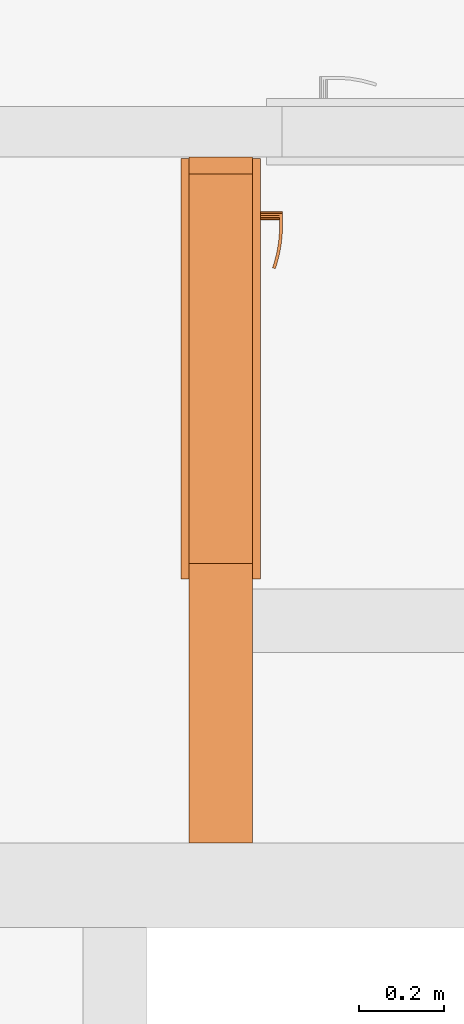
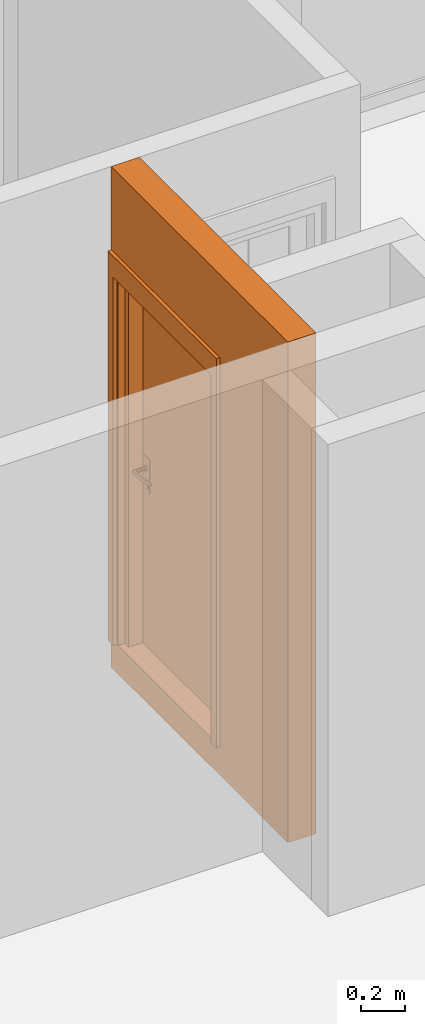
# One storey, part 26 of 66: 2 proxies, 1 opening.
"""IFC2X3 building model written with IfcOpenShell, lengths in millimetres."""

from ifc_helpers import new_model, entity, si_unit, converted_unit, derived_unit, money_unit, direction, frame, origin_with_axes, origin_2d_with_axis, place, context, subcontext, project, spatial, rectangle, extrude, open_shell, faceted_brep, surface_model, source, transform, mapped, material, type_object, element, fill, save


model = new_model("IFC2X3")

# Units and contexts
model_context = context("Model", 3, precision=0.01, world=origin_with_axes(), true_north=direction((0.34421633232, 0.938890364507)))
body_context = subcontext(model_context, "Body", "Model", "MODEL_VIEW")
ifc_project = project(units=[si_unit("LENGTHUNIT", "METRE", prefix="MILLI"), si_unit("AREAUNIT", "SQUARE_METRE"), si_unit("VOLUMEUNIT", "CUBIC_METRE"), converted_unit("PLANEANGLEUNIT", "DEGREE", entity("IfcPlaneAngleMeasure", 0.0174532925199), si_unit("PLANEANGLEUNIT", "RADIAN"), dimensions=[0, 0, 0, 0, 0, 0, 0]), si_unit("SOLIDANGLEUNIT", "STERADIAN"), money_unit("USD"), converted_unit("TIMEUNIT", "Year", entity("IfcTimeMeasure", 31556926.0), si_unit("TIMEUNIT", "SECOND"), dimensions=[0, 0, 1, 0, 0, 0, 0]), si_unit("MASSUNIT", "GRAM", prefix="KILO"), si_unit("THERMODYNAMICTEMPERATUREUNIT", "DEGREE_CELSIUS"), si_unit("LUMINOUSINTENSITYUNIT", "LUMEN"), si_unit("ENERGYUNIT", "JOULE", prefix="MEGA"), derived_unit("THERMALCONDUCTANCEUNIT", [(si_unit("POWERUNIT", "WATT"), 1), (si_unit("LENGTHUNIT", "METRE"), -1), (si_unit("THERMODYNAMICTEMPERATUREUNIT", "KELVIN"), -1)]), derived_unit("SPECIFICHEATCAPACITYUNIT", [(si_unit("ENERGYUNIT", "JOULE"), 1), (si_unit("MASSUNIT", "GRAM", prefix="KILO"), -1), (si_unit("THERMODYNAMICTEMPERATUREUNIT", "KELVIN"), -1)]), derived_unit("MASSDENSITYUNIT", [(si_unit("MASSUNIT", "GRAM", prefix="KILO"), 1), (si_unit("VOLUMEUNIT", "CUBIC_METRE"), -1)])], contexts=[model_context])

# Site, building, storey
site_placement = place(None, origin_with_axes())
site = spatial("IfcSite", under=ifc_project, at=site_placement, Name="USTRONIE MORSKIE", CompositionType="ELEMENT")
building_placement = place(site_placement, origin_with_axes())
building = spatial("IfcBuilding", under=site, at=building_placement, Name="Budynek", CompositionType="ELEMENT")
storey_placement = place(building_placement, frame((0.0, 0.0, 10000.0), z_axis=(0.0, 0.0, 1.0), x_axis=(1.0, 0.0, 0.0)))
storey = spatial("IfcBuildingStorey", under=building, at=storey_placement, Name="PIĘTRO 3", CompositionType="ELEMENT", Elevation=10000.0)

# Proxies, opening
ifc_material = material(Name="Bloczki silikatowe")
building_element_proxy_type_1 = type_object("IfcBuildingElementProxyType", Name="Bloczki silikatowe 150", PredefinedType="NOTDEFINED")
proxy_1_placement = place(storey_placement, frame((353042.920919, 744701.199036, -160.0), z_axis=(0.0, 0.0, 1.0), x_axis=(0.0, 1.0, 0.0)))
proxy_1 = element("IfcBuildingElementProxy", 1, at=proxy_1_placement, inside=storey, type_object=building_element_proxy_type_1, material=ifc_material, Name="SW-03", context=body_context, shape_type="Brep", body=[
    faceted_brep([(1720.0, -75.0, 2800.0), (1720.0, 75.0, 2800.0), (100.0, 75.0, 2800.0), (100.0, -75.0, 2800.0), (1720.0, -75.0, 0.0), (1720.0, 75.0, 0.0), (100.0, 75.0, 0.0), (100.0, -75.0, 0.0)], [[[0, 1, 2, 3]], [[1, 0, 4, 5]], [[1, 5, 6, 2]], [[7, 3, 2, 6]], [[4, 0, 3, 7]], [[5, 4, 7, 6]]]),
])
opening_placement = place(proxy_1_placement, frame((1220.0, 0.0, 160.0), z_axis=(0.0, 0.0, 1.0), x_axis=(1.0, 0.0, 0.0)))
opening = element("IfcOpeningElement", 2, at=opening_placement, cuts=proxy_1, Name="Dw.4", context=body_context, shape_type="SweptSolid", body=[
    extrude(rectangle(XDim=920.0, YDim=2070.0, at=origin_2d_with_axis()), frame((0.0, 150.0, 1035.0), z_axis=(0.0, -1.0, 0.0), x_axis=(-1.0, 0.0, 0.0)), (0.0, 0.0, 1.0), 450.0),
    extrude(rectangle(XDim=994.0, YDim=2177.0, at=origin_2d_with_axis()), frame((0.0, 75.0, 1088.5), z_axis=(0.0, -1.0, 0.0), x_axis=(-1.0, 0.0, 0.0)), (0.0, 0.0, -1.0), 150.0),
    extrude(rectangle(XDim=994.0, YDim=2177.0, at=origin_2d_with_axis()), frame((0.0, -75.0, 1088.5), z_axis=(0.0, 1.0, 0.0), x_axis=(-1.0, 0.0, 0.0)), (0.0, 0.0, -1.0), 150.0),
])
building_element_proxy_type_2 = type_object("IfcBuildingElementProxyType", Name="Drzwi 23", PredefinedType="NOTDEFINED")
shared_shape = source(origin_with_axes(), body_context, "Body", "SurfaceModel", [
    faceted_brep([(-460.0, -115.0, 0.0), (-435.0, -115.0, 0.0), (-435.0, -150.0, 0.0), (-460.0, -150.0, 0.0), (-460.0, -115.0, 2070.0), (-435.0, -115.0, 2045.0), (-435.0, -150.0, 2045.0), (-460.0, -150.0, 2070.0)], [[[0, 1, 2, 3]], [[0, 4, 5, 1]], [[1, 5, 6, 2]], [[3, 2, 6, 7]], [[4, 0, 3, 7]], [[5, 4, 7, 6]]]),
    faceted_brep([(460.0, -115.0, 2070.0), (435.0, -115.0, 2045.0), (435.0, -150.0, 2045.0), (460.0, -150.0, 2070.0), (460.0, -115.0, 0.0), (435.0, -115.0, 0.0), (435.0, -150.0, 0.0), (460.0, -150.0, 0.0)], [[[0, 1, 2, 3]], [[0, 4, 5, 1]], [[1, 5, 6, 2]], [[3, 2, 6, 7]], [[4, 0, 3, 7]], [[5, 4, 7, 6]]]),
    faceted_brep([(-435.0, -115.0, 2045.0), (435.0, -115.0, 2045.0), (435.0, -150.0, 2045.0), (-435.0, -150.0, 2045.0), (-460.0, -115.0, 2070.0), (460.0, -115.0, 2070.0), (460.0, -150.0, 2070.0), (-460.0, -150.0, 2070.0)], [[[0, 1, 2, 3]], [[0, 4, 5, 1]], [[1, 5, 6, 2]], [[3, 2, 6, 7]], [[4, 0, 3, 7]], [[5, 4, 7, 6]]]),
    faceted_brep([(-497.0, -169.0, 0.0), (-497.0, -150.0, 0.0), (-447.0, -150.0, 0.0), (-447.0, -169.0, 0.0), (-497.0, -169.0, 2177.0), (-497.0, -150.0, 2177.0), (-447.0, -150.0, 2057.0), (-447.0, -169.0, 2057.0)], [[[0, 1, 2, 3]], [[4, 5, 1, 0]], [[1, 5, 6, 2]], [[3, 2, 6, 7]], [[0, 3, 7, 4]], [[7, 6, 5, 4]]]),
    faceted_brep([(497.0, -169.0, 2177.0), (497.0, -150.0, 2177.0), (447.0, -150.0, 2057.0), (447.0, -169.0, 2057.0), (497.0, -169.0, 0.0), (497.0, -150.0, 0.0), (447.0, -150.0, 0.0), (447.0, -169.0, 0.0)], [[[0, 1, 2, 3]], [[4, 5, 1, 0]], [[1, 5, 6, 2]], [[3, 2, 6, 7]], [[0, 3, 7, 4]], [[7, 6, 5, 4]]]),
    faceted_brep([(-497.0, -169.0, 2177.0), (-497.0, -150.0, 2177.0), (-447.0, -150.0, 2057.0), (-447.0, -169.0, 2057.0), (497.0, -169.0, 2177.0), (497.0, -150.0, 2177.0), (447.0, -150.0, 2057.0), (447.0, -169.0, 2057.0)], [[[0, 1, 2, 3]], [[4, 5, 1, 0]], [[1, 5, 6, 2]], [[3, 2, 6, 7]], [[0, 3, 7, 4]], [[7, 6, 5, 4]]]),
    faceted_brep([(-497.0, 19.0, 0.0), (-447.0, 19.0, 0.0), (-447.0, 0.0, 0.0), (-497.0, 0.0, 0.0), (-497.0, 19.0, 2177.0), (-447.0, 19.0, 2057.0), (-447.0, 0.0, 2057.0), (-497.0, 0.0, 2177.0)], [[[0, 1, 2, 3]], [[0, 4, 5, 1]], [[1, 5, 6, 2]], [[3, 2, 6, 7]], [[4, 0, 3, 7]], [[5, 4, 7, 6]]]),
    faceted_brep([(497.0, 19.0, 2177.0), (447.0, 19.0, 2057.0), (447.0, 0.0, 2057.0), (497.0, 0.0, 2177.0), (497.0, 19.0, 0.0), (447.0, 19.0, 0.0), (447.0, 0.0, 0.0), (497.0, 0.0, 0.0)], [[[0, 1, 2, 3]], [[0, 4, 5, 1]], [[1, 5, 6, 2]], [[3, 2, 6, 7]], [[4, 0, 3, 7]], [[5, 4, 7, 6]]]),
    faceted_brep([(-497.0, 19.0, 2177.0), (-447.0, 19.0, 2057.0), (-447.0, 0.0, 2057.0), (-497.0, 0.0, 2177.0), (497.0, 19.0, 2177.0), (447.0, 19.0, 2057.0), (447.0, 0.0, 2057.0), (497.0, 0.0, 2177.0)], [[[0, 1, 2, 3]], [[0, 4, 5, 1]], [[1, 5, 6, 2]], [[3, 2, 6, 7]], [[4, 0, 3, 7]], [[5, 4, 7, 6]]]),
    faceted_brep([(-400.0, -40.0, 0.0), (-400.0, -40.0, 2000.0), (-400.0, -115.0, 2000.0), (-400.0, -115.0, 0.0), (-412.0, -40.0, 2000.0), (-412.0, -40.0, 0.0), (-412.0, 0.0, 2000.0), (-460.0, 0.0, 2000.0), (-460.0, -115.0, 2000.0), (-460.0, -115.0, 0.0), (-460.0, 0.0, 0.0), (-412.0, 0.0, 0.0)], [[[0, 1, 2, 3]], [[4, 1, 0, 5]], [[4, 6, 7, 8, 2, 1]], [[3, 2, 8, 9]], [[5, 0, 3, 9, 10, 11]], [[6, 4, 5, 11]], [[6, 11, 10, 7]], [[10, 9, 8, 7]]]),
    faceted_brep([(412.0, -40.0, 2000.0), (400.0, -40.0, 2000.0), (400.0, -115.0, 2000.0), (460.0, -115.0, 2000.0), (460.0, 0.0, 2000.0), (412.0, 0.0, 2000.0), (412.0, -40.0, 0.0), (400.0, -40.0, 0.0), (400.0, -115.0, 0.0), (460.0, -115.0, 0.0), (460.0, 0.0, 0.0), (412.0, 0.0, 0.0)], [[[0, 1, 2, 3, 4, 5]], [[1, 0, 6, 7]], [[1, 7, 8, 2]], [[3, 2, 8, 9]], [[4, 3, 9, 10]], [[11, 5, 4, 10]], [[0, 5, 11, 6]], [[6, 11, 10, 9, 8, 7]]]),
    faceted_brep([(-412.0, 0.0, 2012.0), (-412.0, 0.0, 2000.0), (-460.0, 0.0, 2000.0), (-460.0, 0.0, 2070.0), (460.0, 0.0, 2070.0), (460.0, 0.0, 2000.0), (412.0, 0.0, 2000.0), (412.0, 0.0, 2012.0), (-412.0, -40.0, 2012.0), (-412.0, -40.0, 2000.0), (-400.0, -40.0, 2000.0), (-400.0, -115.0, 2000.0), (-460.0, -115.0, 2000.0), (-460.0, -115.0, 2070.0), (460.0, -115.0, 2070.0), (460.0, -115.0, 2000.0), (412.0, -40.0, 2000.0), (400.0, -115.0, 2000.0), (400.0, -40.0, 2000.0), (412.0, -40.0, 2012.0)], [[[0, 1, 2, 3, 4, 5, 6, 7]], [[1, 0, 8, 9]], [[9, 10, 11, 12, 2, 1]], [[2, 12, 13, 3]], [[3, 13, 14, 4]], [[4, 14, 15, 5]], [[16, 6, 5, 15, 17, 18]], [[7, 6, 16, 19]], [[0, 7, 19, 8]], [[16, 18, 10, 9, 8, 19]], [[10, 18, 17, 11]], [[17, 15, 14, 13, 12, 11]]]),
    faceted_brep([(-390.5, -40.0, 1060.0), (-390.5, -43.0, 1060.0), (-333.5, -43.0, 1060.0), (-333.5, -40.0, 1060.0), (-390.5, -40.0, 870.0), (-390.5, -43.0, 870.0), (-333.5, -43.0, 870.0), (-333.5, -40.0, 870.0)], [[[0, 1, 2, 3]], [[4, 5, 1, 0]], [[1, 5, 6, 2]], [[3, 2, 6, 7]], [[0, 3, 7, 4]], [[7, 6, 5, 4]]]),
    faceted_brep([(-362.0, -104.0, 990.0), (-362.0, -111.0, 990.0), (-367.0, -111.0, 991.339745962), (-367.0, -104.0, 991.339745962), (-337.0, -104.0, 990.0), (-337.0, -111.0, 990.0), (-337.0, -111.0, 1010.0), (-362.0, -111.0, 1010.0), (-367.0, -111.0, 1008.66025404), (-370.660254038, -111.0, 1005.0), (-372.0, -111.0, 1000.0), (-370.660254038, -111.0, 995.0), (-370.660254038, -104.0, 995.0), (-372.0, -104.0, 1000.0), (-370.660254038, -104.0, 1005.0), (-367.0, -104.0, 1008.66025404), (-362.0, -104.0, 1010.0), (-337.0, -104.0, 1010.0)], [[[0, 1, 2, 3]], [[4, 5, 1, 0]], [[1, 5, 6, 7, 8, 9, 10, 11, 2]], [[3, 2, 11, 12]], [[0, 3, 12, 13, 14, 15, 16, 17, 4]], [[17, 6, 5, 4]], [[16, 7, 6, 17]], [[15, 8, 7, 16]], [[14, 9, 8, 15]], [[13, 10, 9, 14]], [[12, 11, 10, 13]]]),
    surface_model("IfcShellBasedSurfaceModel", [(-337.0, -104.0, 1010.0), (-323.596090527, -111.0, 1009.60730092), (-323.901717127, -104.0, 1009.60730092), (-337.0, -111.0, 1010.0), (-296.890283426, -108.663544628, 1008.82190275), (-323.901717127, -104.0, 990.392699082), (-337.0, -104.0, 990.0), (-337.0, -111.0, 990.0), (-323.596090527, -111.0, 990.392699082), (-296.890283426, -108.663544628, 991.178097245), (-297.804837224, -101.716818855, 1008.82190275), (-297.804837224, -101.716818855, 991.178097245), (-270.489735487, -104.008415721, 991.963495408), (-270.489735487, -104.008415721, 1008.03650459), (-272.006256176, -97.1678329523, 1008.03650459), (-272.006256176, -97.1678329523, 991.963495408), (-244.59537082, -97.0700416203, 992.748893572), (-244.59537082, -97.0700416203, 1007.25110643), (-246.702316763, -90.3876628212, 1007.25110643), (-246.702316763, -90.3876628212, 992.748893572), (-236.538795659, -94.1376880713, 993.0), (-236.538795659, -94.1376880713, 1007.0), (-238.829442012, -87.5221707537, 1007.0), (-238.829442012, -87.5221707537, 993.0)], [open_shell([[[0, 1, 2]], [[0, 3, 1]], [[2, 1, 4]], [[0, 2, 5, 6]], [[3, 7, 8, 1]], [[1, 8, 9, 4]], [[2, 4, 10]], [[2, 10, 11, 5]], [[5, 7, 6]], [[5, 8, 7]], [[11, 9, 8]], [[4, 9, 12, 13]], [[10, 4, 13]], [[10, 14, 15, 11]], [[11, 8, 5]], [[15, 9, 11]], [[15, 12, 9]], [[13, 12, 16, 17]], [[10, 13, 14]], [[14, 18, 19, 15]], [[19, 12, 15]], [[19, 16, 12]], [[17, 16, 20, 21]], [[14, 13, 17]], [[14, 17, 18]], [[18, 22, 23, 19]], [[23, 16, 19]], [[23, 20, 16]], [[22, 21, 20, 23]], [[18, 17, 21]], [[18, 21, 22]]])]),
    faceted_brep([(-351.607695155, -53.0, 994.0), (-350.741669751, -43.0, 993.5), (-349.0, -43.0, 1000.0), (-350.0, -53.0, 1000.0), (-356.0, -53.0, 989.607695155), (-355.5, -43.0, 988.741669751), (-362.0, -43.0, 987.0), (-368.5, -43.0, 988.741669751), (-373.258330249, -43.0, 993.5), (-375.0, -43.0, 1000.0), (-373.258330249, -43.0, 1006.5), (-368.5, -43.0, 1011.25833025), (-362.0, -43.0, 1013.0), (-355.5, -43.0, 1011.25833025), (-350.741669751, -43.0, 1006.5), (-351.607695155, -53.0, 1006.0), (-356.0, -53.0, 1010.39230485), (-362.0, -53.0, 1012.0), (-368.0, -53.0, 1010.39230485), (-372.392304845, -53.0, 1006.0), (-374.0, -53.0, 1000.0), (-372.392304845, -53.0, 994.0), (-368.0, -53.0, 989.607695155), (-362.0, -53.0, 988.0)], [[[0, 1, 2, 3]], [[4, 5, 1, 0]], [[2, 1, 5, 6, 7, 8, 9, 10, 11, 12, 13, 14]], [[3, 2, 14, 15]], [[3, 15, 16, 17, 18, 19, 20, 21, 22, 23, 4, 0]], [[23, 6, 5, 4]], [[22, 7, 6, 23]], [[21, 8, 7, 22]], [[20, 9, 8, 21]], [[19, 10, 9, 20]], [[18, 11, 10, 19]], [[17, 12, 11, 18]], [[16, 13, 12, 17]], [[15, 14, 13, 16]]]),
    faceted_brep([(-344.679491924, -47.0, 895.0), (-342.947441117, -43.0, 894.0), (-340.0, -43.0, 905.0), (-342.0, -47.0, 905.0), (-352.0, -47.0, 887.679491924), (-351.0, -43.0, 885.947441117), (-362.0, -43.0, 883.0), (-373.0, -43.0, 885.947441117), (-381.052558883, -43.0, 894.0), (-384.0, -43.0, 905.0), (-381.052558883, -43.0, 916.0), (-373.0, -43.0, 924.052558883), (-362.0, -43.0, 927.0), (-351.0, -43.0, 924.052558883), (-342.947441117, -43.0, 916.0), (-344.679491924, -47.0, 915.0), (-352.0, -47.0, 922.320508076), (-362.0, -47.0, 925.0), (-372.0, -47.0, 922.320508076), (-379.320508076, -47.0, 915.0), (-382.0, -47.0, 905.0), (-379.320508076, -47.0, 895.0), (-372.0, -47.0, 887.679491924), (-362.0, -47.0, 885.0)], [[[0, 1, 2, 3]], [[4, 5, 1, 0]], [[2, 1, 5, 6, 7, 8, 9, 10, 11, 12, 13, 14]], [[3, 2, 14, 15]], [[3, 15, 16, 17, 18, 19, 20, 21, 22, 23, 4, 0]], [[23, 6, 5, 4]], [[22, 7, 6, 23]], [[21, 8, 7, 22]], [[20, 9, 8, 21]], [[19, 10, 9, 20]], [[18, 11, 10, 19]], [[17, 12, 11, 18]], [[16, 13, 12, 17]], [[15, 14, 13, 16]]]),
    faceted_brep([(-357.050252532, -49.0, 909.050252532), (-356.343145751, -47.0, 908.343145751), (-354.0, -47.0, 914.0), (-355.0, -49.0, 914.0), (-362.0, -49.0, 907.0), (-362.0, -47.0, 906.0), (-367.656854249, -47.0, 908.343145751), (-370.0, -47.0, 914.0), (-367.656854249, -47.0, 919.656854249), (-362.0, -47.0, 922.0), (-356.343145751, -47.0, 919.656854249), (-357.050252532, -49.0, 918.949747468), (-362.0, -49.0, 921.0), (-366.949747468, -49.0, 918.949747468), (-369.0, -49.0, 914.0), (-366.949747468, -49.0, 909.050252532)], [[[0, 1, 2, 3]], [[4, 5, 1, 0]], [[2, 1, 5, 6, 7, 8, 9, 10]], [[3, 2, 10, 11]], [[3, 11, 12, 13, 14, 15, 4, 0]], [[15, 6, 5, 4]], [[14, 7, 6, 15]], [[13, 8, 7, 14]], [[12, 9, 8, 13]], [[11, 10, 9, 12]]]),
    faceted_brep([(-362.0, -53.0, 1010.0), (-362.0, -104.0, 1010.0), (-357.0, -104.0, 1008.66025404), (-357.0, -53.0, 1008.66025404), (-367.0, -53.0, 1008.66025404), (-367.0, -104.0, 1008.66025404), (-370.660254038, -104.0, 1005.0), (-372.0, -104.0, 1000.0), (-370.660254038, -104.0, 995.0), (-367.0, -104.0, 991.339745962), (-362.0, -104.0, 990.0), (-357.0, -104.0, 991.339745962), (-353.339745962, -104.0, 995.0), (-352.0, -104.0, 1000.0), (-353.339745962, -104.0, 1005.0), (-353.339745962, -53.0, 1005.0), (-352.0, -53.0, 1000.0), (-353.339745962, -53.0, 995.0), (-357.0, -53.0, 991.339745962), (-362.0, -53.0, 990.0), (-367.0, -53.0, 991.339745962), (-370.660254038, -53.0, 995.0), (-372.0, -53.0, 1000.0), (-370.660254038, -53.0, 1005.0)], [[[0, 1, 2, 3]], [[4, 5, 1, 0]], [[1, 5, 6, 7, 8, 9, 10, 11, 12, 13, 14, 2]], [[3, 2, 14, 15]], [[0, 3, 15, 16, 17, 18, 19, 20, 21, 22, 23, 4]], [[23, 6, 5, 4]], [[22, 7, 6, 23]], [[21, 8, 7, 22]], [[20, 9, 8, 21]], [[19, 10, 9, 20]], [[18, 11, 10, 19]], [[17, 12, 11, 18]], [[16, 13, 12, 17]], [[15, 14, 13, 16]]]),
    faceted_brep([(-390.5, 0.0, 1060.0), (-333.5, 0.0, 1060.0), (-333.5, 3.0, 1060.0), (-390.5, 3.0, 1060.0), (-390.5, 0.0, 870.0), (-333.5, 0.0, 870.0), (-333.5, 3.0, 870.0), (-390.5, 3.0, 870.0)], [[[0, 1, 2, 3]], [[0, 4, 5, 1]], [[1, 5, 6, 2]], [[3, 2, 6, 7]], [[4, 0, 3, 7]], [[5, 4, 7, 6]]]),
    faceted_brep([(-362.0, 64.0, 990.0), (-367.0, 64.0, 991.339745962), (-367.0, 71.0, 991.339745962), (-362.0, 71.0, 990.0), (-337.0, 64.0, 990.0), (-337.0, 64.0, 1010.0), (-362.0, 64.0, 1010.0), (-367.0, 64.0, 1008.66025404), (-370.660254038, 64.0, 1005.0), (-372.0, 64.0, 1000.0), (-370.660254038, 64.0, 995.0), (-370.660254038, 71.0, 995.0), (-372.0, 71.0, 1000.0), (-370.660254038, 71.0, 1005.0), (-367.0, 71.0, 1008.66025404), (-362.0, 71.0, 1010.0), (-337.0, 71.0, 1010.0), (-337.0, 71.0, 990.0)], [[[0, 1, 2, 3]], [[0, 4, 5, 6, 7, 8, 9, 10, 1]], [[1, 10, 11, 2]], [[3, 2, 11, 12, 13, 14, 15, 16, 17]], [[4, 0, 3, 17]], [[5, 4, 17, 16]], [[6, 5, 16, 15]], [[7, 6, 15, 14]], [[8, 7, 14, 13]], [[9, 8, 13, 12]], [[10, 9, 12, 11]]]),
    surface_model("IfcShellBasedSurfaceModel", [(-337.0, 64.0, 1010.0), (-323.901717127, 64.0, 1009.60730092), (-323.596090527, 71.0, 1009.60730092), (-337.0, 64.0, 990.0), (-323.901717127, 64.0, 990.392699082), (-296.890283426, 68.6635446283, 1008.82190275), (-337.0, 71.0, 1010.0), (-337.0, 71.0, 990.0), (-297.804837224, 61.716818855, 991.178097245), (-297.804837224, 61.716818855, 1008.82190275), (-296.890283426, 68.6635446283, 991.178097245), (-323.596090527, 71.0, 990.392699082), (-272.006256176, 57.1678329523, 991.963495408), (-272.006256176, 57.1678329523, 1008.03650459), (-270.489735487, 64.0084157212, 1008.03650459), (-270.489735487, 64.0084157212, 991.963495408), (-246.702316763, 50.3876628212, 992.748893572), (-246.702316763, 50.3876628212, 1007.25110643), (-244.59537082, 57.0700416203, 1007.25110643), (-244.59537082, 57.0700416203, 992.748893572), (-238.829442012, 47.5221707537, 993.0), (-238.829442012, 47.5221707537, 1007.0), (-236.538795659, 54.1376880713, 1007.0), (-236.538795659, 54.1376880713, 993.0)], [open_shell([[[0, 1, 2]], [[0, 3, 4, 1]], [[1, 5, 2]], [[0, 2, 6]], [[4, 3, 7]], [[1, 4, 8, 9]], [[1, 9, 5]], [[2, 5, 10, 11]], [[6, 2, 11, 7]], [[4, 7, 11]], [[8, 4, 11]], [[9, 8, 12, 13]], [[9, 14, 5]], [[5, 14, 15, 10]], [[8, 11, 10]], [[12, 8, 10]], [[13, 12, 16, 17]], [[9, 13, 14]], [[14, 18, 19, 15]], [[12, 10, 15]], [[16, 12, 15]], [[17, 16, 20, 21]], [[13, 17, 18]], [[13, 18, 14]], [[18, 22, 23, 19]], [[16, 15, 19]], [[20, 16, 19]], [[21, 20, 23, 22]], [[17, 21, 22]], [[17, 22, 18]], [[20, 19, 23]]])]),
    faceted_brep([(-351.607695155, 13.0, 994.0), (-350.0, 13.0, 1000.0), (-349.0, 3.0, 1000.0), (-350.741669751, 3.0, 993.5), (-356.0, 13.0, 989.607695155), (-362.0, 13.0, 988.0), (-368.0, 13.0, 989.607695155), (-372.392304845, 13.0, 994.0), (-374.0, 13.0, 1000.0), (-372.392304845, 13.0, 1006.0), (-368.0, 13.0, 1010.39230485), (-362.0, 13.0, 1012.0), (-356.0, 13.0, 1010.39230485), (-351.607695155, 13.0, 1006.0), (-350.741669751, 3.0, 1006.5), (-355.5, 3.0, 1011.25833025), (-362.0, 3.0, 1013.0), (-368.5, 3.0, 1011.25833025), (-373.258330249, 3.0, 1006.5), (-375.0, 3.0, 1000.0), (-373.258330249, 3.0, 993.5), (-368.5, 3.0, 988.741669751), (-362.0, 3.0, 987.0), (-355.5, 3.0, 988.741669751)], [[[0, 1, 2, 3]], [[1, 0, 4, 5, 6, 7, 8, 9, 10, 11, 12, 13]], [[1, 13, 14, 2]], [[2, 14, 15, 16, 17, 18, 19, 20, 21, 22, 23, 3]], [[4, 0, 3, 23]], [[5, 4, 23, 22]], [[6, 5, 22, 21]], [[7, 6, 21, 20]], [[8, 7, 20, 19]], [[9, 8, 19, 18]], [[10, 9, 18, 17]], [[11, 10, 17, 16]], [[12, 11, 16, 15]], [[13, 12, 15, 14]]]),
    faceted_brep([(-344.679491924, 7.0, 895.0), (-342.0, 7.0, 905.0), (-340.0, 3.0, 905.0), (-342.947441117, 3.0, 894.0), (-352.0, 7.0, 887.679491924), (-362.0, 7.0, 885.0), (-372.0, 7.0, 887.679491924), (-379.320508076, 7.0, 895.0), (-382.0, 7.0, 905.0), (-379.320508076, 7.0, 915.0), (-372.0, 7.0, 922.320508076), (-362.0, 7.0, 925.0), (-352.0, 7.0, 922.320508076), (-344.679491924, 7.0, 915.0), (-342.947441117, 3.0, 916.0), (-351.0, 3.0, 924.052558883), (-362.0, 3.0, 927.0), (-373.0, 3.0, 924.052558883), (-381.052558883, 3.0, 916.0), (-384.0, 3.0, 905.0), (-381.052558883, 3.0, 894.0), (-373.0, 3.0, 885.947441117), (-362.0, 3.0, 883.0), (-351.0, 3.0, 885.947441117)], [[[0, 1, 2, 3]], [[1, 0, 4, 5, 6, 7, 8, 9, 10, 11, 12, 13]], [[1, 13, 14, 2]], [[2, 14, 15, 16, 17, 18, 19, 20, 21, 22, 23, 3]], [[4, 0, 3, 23]], [[5, 4, 23, 22]], [[6, 5, 22, 21]], [[7, 6, 21, 20]], [[8, 7, 20, 19]], [[9, 8, 19, 18]], [[10, 9, 18, 17]], [[11, 10, 17, 16]], [[12, 11, 16, 15]], [[13, 12, 15, 14]]]),
    faceted_brep([(-357.050252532, 9.0, 909.050252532), (-355.0, 9.0, 914.0), (-354.0, 7.0, 914.0), (-356.343145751, 7.0, 908.343145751), (-362.0, 9.0, 907.0), (-366.949747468, 9.0, 909.050252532), (-369.0, 9.0, 914.0), (-366.949747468, 9.0, 918.949747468), (-362.0, 9.0, 921.0), (-357.050252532, 9.0, 918.949747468), (-356.343145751, 7.0, 919.656854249), (-362.0, 7.0, 922.0), (-367.656854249, 7.0, 919.656854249), (-370.0, 7.0, 914.0), (-367.656854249, 7.0, 908.343145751), (-362.0, 7.0, 906.0)], [[[0, 1, 2, 3]], [[1, 0, 4, 5, 6, 7, 8, 9]], [[1, 9, 10, 2]], [[2, 10, 11, 12, 13, 14, 15, 3]], [[4, 0, 3, 15]], [[5, 4, 15, 14]], [[6, 5, 14, 13]], [[7, 6, 13, 12]], [[8, 7, 12, 11]], [[9, 8, 11, 10]]]),
    faceted_brep([(-362.0, 13.0, 1010.0), (-357.0, 13.0, 1008.66025404), (-357.0, 64.0, 1008.66025404), (-362.0, 64.0, 1010.0), (-367.0, 13.0, 1008.66025404), (-370.660254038, 13.0, 1005.0), (-372.0, 13.0, 1000.0), (-370.660254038, 13.0, 995.0), (-367.0, 13.0, 991.339745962), (-362.0, 13.0, 990.0), (-357.0, 13.0, 991.339745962), (-353.339745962, 13.0, 995.0), (-352.0, 13.0, 1000.0), (-353.339745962, 13.0, 1005.0), (-353.339745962, 64.0, 1005.0), (-352.0, 64.0, 1000.0), (-353.339745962, 64.0, 995.0), (-357.0, 64.0, 991.339745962), (-362.0, 64.0, 990.0), (-367.0, 64.0, 991.339745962), (-370.660254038, 64.0, 995.0), (-372.0, 64.0, 1000.0), (-370.660254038, 64.0, 1005.0), (-367.0, 64.0, 1008.66025404)], [[[0, 1, 2, 3]], [[0, 4, 5, 6, 7, 8, 9, 10, 11, 12, 13, 1]], [[1, 13, 14, 2]], [[3, 2, 14, 15, 16, 17, 18, 19, 20, 21, 22, 23]], [[4, 0, 3, 23]], [[5, 4, 23, 22]], [[6, 5, 22, 21]], [[7, 6, 21, 20]], [[8, 7, 20, 19]], [[9, 8, 19, 18]], [[10, 9, 18, 17]], [[11, 10, 17, 16]], [[12, 11, 16, 15]], [[13, 12, 15, 14]]]),
    faceted_brep([(412.0, 0.0, 0.0), (412.0, -40.0, 0.0), (-412.0, -40.0, 0.0), (-412.0, 0.0, 0.0), (412.0, 0.0, 2012.0), (412.0, -40.0, 2012.0), (-412.0, -40.0, 2012.0), (-412.0, 0.0, 2012.0)], [[[0, 1, 2, 3]], [[4, 5, 1, 0]], [[1, 5, 6, 2]], [[3, 2, 6, 7]], [[0, 3, 7, 4]], [[7, 6, 5, 4]]]),
])
proxy_2_placement = place(opening_placement, frame((400.0, 0.0, 0.0), z_axis=(0.0, 0.0, 1.0), x_axis=(-1.0, 0.0, 0.0)))
proxy_2 = element("IfcBuildingElementProxy", 3, at=proxy_2_placement, inside=storey, type_object=building_element_proxy_type_2, Name="Dw.4", context=body_context, shape_type="MappedRepresentation", body=[
    mapped(shared_shape, transform((400.0, 75.0, 0.0))),
])
fill(opening, proxy_2)

save(model, "model.ifc")
